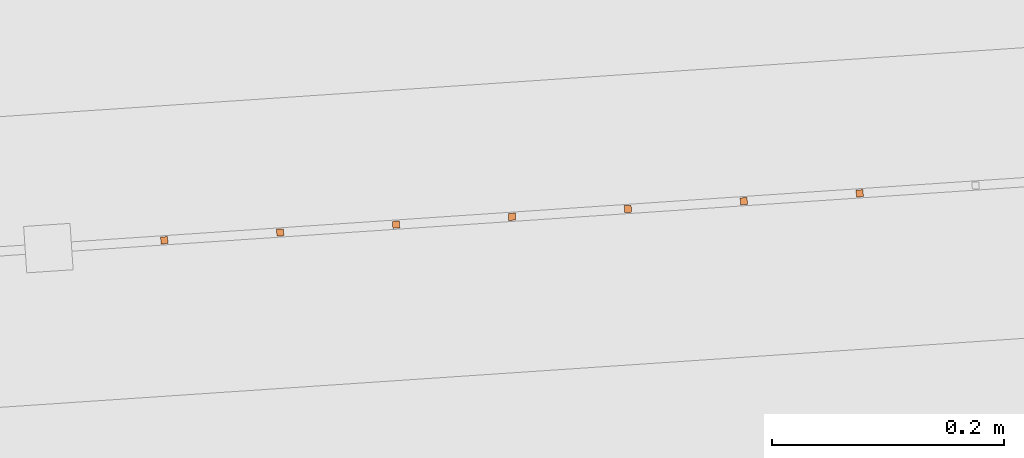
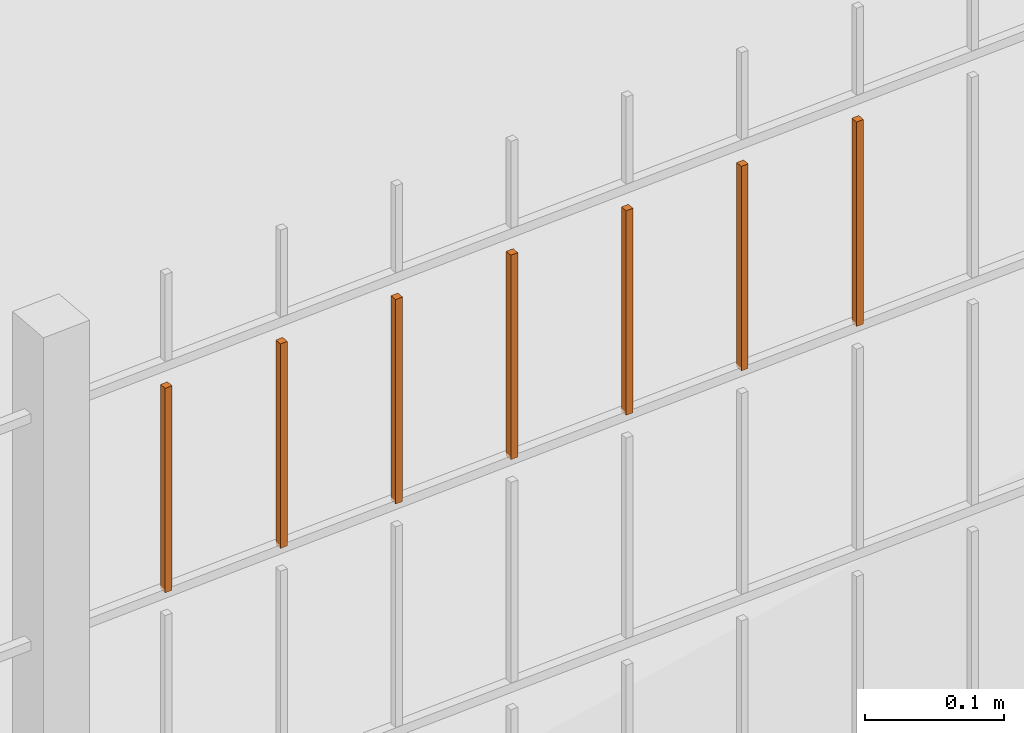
# One storey, part 99 of 1809: 7 proxies, 1 element without a shape of its own.
"""IFC2X3 building model written with IfcOpenShell, lengths in millimetres."""

from ifc_helpers import new_model, entity, si_unit, converted_unit, derived_unit, money_unit, direction, frame, origin_with_axes, place, context, subcontext, project, spatial, faceted_brep, source, transform, mapped, material, type_object, element, aggregate, save


model = new_model("IFC2X3")

# Units and contexts
model_context = context("Model", 3, precision=0.01, world=origin_with_axes(), true_north=direction((0.0, 1.0)))
body_context = subcontext(model_context, "Body", "Model", "MODEL_VIEW")
ifc_project = project(units=[si_unit("LENGTHUNIT", "METRE", prefix="MILLI"), si_unit("AREAUNIT", "SQUARE_METRE"), si_unit("VOLUMEUNIT", "CUBIC_METRE"), converted_unit("PLANEANGLEUNIT", "DEGREE", entity("IfcPlaneAngleMeasure", 0.0174532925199), si_unit("PLANEANGLEUNIT", "RADIAN"), dimensions=[0, 0, 0, 0, 0, 0, 0]), si_unit("SOLIDANGLEUNIT", "STERADIAN"), money_unit("EUR"), converted_unit("TIMEUNIT", "Year", entity("IfcTimeMeasure", 31556926.0), si_unit("TIMEUNIT", "SECOND"), dimensions=[0, 0, 1, 0, 0, 0, 0]), si_unit("MASSUNIT", "GRAM", prefix="KILO"), si_unit("THERMODYNAMICTEMPERATUREUNIT", "DEGREE_CELSIUS"), si_unit("LUMINOUSINTENSITYUNIT", "LUMEN"), si_unit("ENERGYUNIT", "JOULE", prefix="MEGA"), derived_unit("THERMALCONDUCTANCEUNIT", [(si_unit("POWERUNIT", "WATT"), 1), (si_unit("LENGTHUNIT", "METRE"), -1), (si_unit("THERMODYNAMICTEMPERATUREUNIT", "KELVIN"), -1)]), derived_unit("SPECIFICHEATCAPACITYUNIT", [(si_unit("ENERGYUNIT", "JOULE"), 1), (si_unit("MASSUNIT", "GRAM", prefix="KILO"), -1), (si_unit("THERMODYNAMICTEMPERATUREUNIT", "KELVIN"), -1)]), derived_unit("MASSDENSITYUNIT", [(si_unit("MASSUNIT", "GRAM", prefix="KILO"), 1), (si_unit("VOLUMEUNIT", "CUBIC_METRE"), -1)])], contexts=[model_context])

# Site, building, storey
site_placement = place(None, origin_with_axes())
site = spatial("IfcSite", under=ifc_project, at=site_placement, Name="Politse- ja Piirivalveameti ning Päästeameti ühishoone", CompositionType="ELEMENT")
building_placement = place(site_placement, origin_with_axes())
building = spatial("IfcBuilding", under=site, at=building_placement, Name="Politse- ja Piirivalveameti ning Päästeameti ühishoone", CompositionType="ELEMENT")
storey_placement = place(building_placement, origin_with_axes())
storey = spatial("IfcBuildingStorey", under=building, at=storey_placement, Name="Esimene korrus", CompositionType="ELEMENT", Elevation=0.0)

# Proxies
building_element_proxy_type_1 = type_object("IfcBuildingElementProxyType", Name="Railing Type", PredefinedType="NOTDEFINED")
proxy_1_placement = place(storey_placement, frame((89252.001212, -29183.4766571, 203.661247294), z_axis=(0.0, 0.0, 1.0), x_axis=(1.0, 0.0, 0.0)))
proxy_1 = element("IfcBuildingElementProxy", 1, at=proxy_1_placement, inside=storey, type_object=building_element_proxy_type_1, Name="PIIRDEAED")
ifc_material = material(Name="ET-03_Raud")
building_element_proxy_type_2 = type_object("IfcBuildingElementProxyType", Name="IfcBuildingElementProxy", PredefinedType="NOTDEFINED")
shared_shape_1 = source(origin_with_axes(), body_context, "Body", "Brep", [
    faceted_brep([(3.0, 3.0, -0.000752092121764), (-3.0, 3.0, -0.000752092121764), (-3.0, 3.0, 179.99926046), (3.0, 3.0, 179.99926046), (3.0, -3.0, 0.000752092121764), (-3.0, -3.0, 0.000752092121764), (-3.0, -3.0, 180.000764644), (3.0, -3.0, 180.000764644)], [[[0, 1, 2, 3]], [[0, 4, 5, 1]], [[1, 5, 6, 2]], [[3, 2, 6, 7]], [[4, 0, 3, 7]], [[5, 4, 7, 6]]]),
])
proxy_2_placement = place(proxy_1_placement, frame((-96806.1007278, -23836.6615327, 1802.91004964), z_axis=(0.0, 0.0, 1.0), x_axis=(1.0, 0.0, 0.0)))
proxy_2 = element("IfcBuildingElementProxy", 2, at=proxy_2_placement, type_object=building_element_proxy_type_2, material=ifc_material, Name="BALUSTER - 001", context=body_context, shape_type="MappedRepresentation", body=[
    mapped(shared_shape_1, transform((0.0, 0.0, 0.0), x_axis=(-0.0673926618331, 0.997726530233, 0.0), y_axis=(-0.997726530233, -0.0673926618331, 0.0), z_axis=(0.0, 0.0, 1.0))),
])
shared_shape_2 = source(origin_with_axes(), body_context, "Body", "Brep", [
    faceted_brep([(3.0, 3.0, -0.000752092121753), (-3.0, 3.0, -0.000752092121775), (-3.0, 3.0, 179.99926046), (3.0, 3.0, 179.99926046), (3.0, -3.0, 0.000752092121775), (-3.0, -3.0, 0.000752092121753), (-3.0, -3.0, 180.000764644), (3.0, -3.0, 180.000764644)], [[[0, 1, 2, 3]], [[0, 4, 5, 1]], [[1, 5, 6, 2]], [[3, 2, 6, 7]], [[4, 0, 3, 7]], [[5, 4, 7, 6]]]),
])
proxy_3_placement = place(proxy_1_placement, frame((-96706.3280748, -23829.9222665, 1802.93511937), z_axis=(0.0, 0.0, 1.0), x_axis=(1.0, 0.0, 0.0)))
proxy_3 = element("IfcBuildingElementProxy", 3, at=proxy_3_placement, type_object=building_element_proxy_type_2, material=ifc_material, Name="BALUSTER - 001", context=body_context, shape_type="MappedRepresentation", body=[
    mapped(shared_shape_2, transform((0.0, 0.0, 0.0), x_axis=(-0.0673926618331, 0.997726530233, 0.0), y_axis=(-0.997726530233, -0.0673926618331, 0.0), z_axis=(0.0, 0.0, 1.0))),
])
shared_shape_3 = source(origin_with_axes(), body_context, "Body", "Brep", [
    faceted_brep([(3.0, 3.0, -0.000752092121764), (-3.0, 3.0, -0.000752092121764), (-3.0, 3.0, 179.99926046), (3.0, 3.0, 179.99926046), (3.0, -3.0, 0.000752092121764), (-3.0, -3.0, 0.000752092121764), (-3.0, -3.0, 180.000764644), (3.0, -3.0, 180.000764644)], [[[0, 1, 2, 3]], [[0, 4, 5, 1]], [[1, 5, 6, 2]], [[3, 2, 6, 7]], [[4, 0, 3, 7]], [[5, 4, 7, 6]]]),
])
proxy_4_placement = place(proxy_1_placement, frame((-96407.0101157, -23809.704468, 1803.01032859), z_axis=(0.0, 0.0, 1.0), x_axis=(1.0, 0.0, 0.0)))
proxy_4 = element("IfcBuildingElementProxy", 4, at=proxy_4_placement, type_object=building_element_proxy_type_2, material=ifc_material, Name="BALUSTER - 001", context=body_context, shape_type="MappedRepresentation", body=[
    mapped(shared_shape_3, transform((0.0, 0.0, 0.0), x_axis=(-0.0673926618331, 0.997726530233, 0.0), y_axis=(-0.997726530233, -0.0673926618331, 0.0), z_axis=(0.0, 0.0, 1.0))),
])
shared_shape_4 = source(origin_with_axes(), body_context, "Body", "Brep", [
    faceted_brep([(3.0, 3.0, -0.000752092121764), (-3.0, 3.0, -0.000752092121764), (-3.0, 3.0, 179.99926046), (3.0, 3.0, 179.99926046), (3.0, -3.0, 0.000752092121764), (-3.0, -3.0, 0.000752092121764), (-3.0, -3.0, 180.000764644), (3.0, -3.0, 180.000764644)], [[[0, 1, 2, 3]], [[0, 4, 5, 1]], [[1, 5, 6, 2]], [[3, 2, 6, 7]], [[4, 0, 3, 7]], [[5, 4, 7, 6]]]),
])
proxy_5_placement = place(proxy_1_placement, frame((-96905.8733808, -23843.4007989, 1802.8849799), z_axis=(0.0, 0.0, 1.0), x_axis=(1.0, 0.0, 0.0)))
proxy_5 = element("IfcBuildingElementProxy", 5, at=proxy_5_placement, type_object=building_element_proxy_type_2, material=ifc_material, Name="BALUSTER - 001", context=body_context, shape_type="MappedRepresentation", body=[
    mapped(shared_shape_4, transform((0.0, 0.0, 0.0), x_axis=(-0.0673926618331, 0.997726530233, 0.0), y_axis=(-0.997726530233, -0.0673926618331, 0.0), z_axis=(0.0, 0.0, 1.0))),
])
shared_shape_5 = source(origin_with_axes(), body_context, "Body", "Brep", [
    faceted_brep([(3.0, 3.0, -0.000752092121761), (-3.0, 3.0, -0.000752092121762), (-3.0, 3.0, 179.99926046), (3.0, 3.0, 179.99926046), (3.0, -3.0, 0.000752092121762), (-3.0, -3.0, 0.000752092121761), (-3.0, -3.0, 180.000764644), (3.0, -3.0, 180.000764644)], [[[0, 1, 2, 3]], [[0, 4, 5, 1]], [[1, 5, 6, 2]], [[3, 2, 6, 7]], [[4, 0, 3, 7]], [[5, 4, 7, 6]]]),
])
proxy_6_placement = place(proxy_1_placement, frame((-96506.7827687, -23816.4437342, 1802.98525885), z_axis=(0.0, 0.0, 1.0), x_axis=(1.0, 0.0, 0.0)))
proxy_6 = element("IfcBuildingElementProxy", 6, at=proxy_6_placement, type_object=building_element_proxy_type_2, material=ifc_material, Name="BALUSTER - 001", context=body_context, shape_type="MappedRepresentation", body=[
    mapped(shared_shape_5, transform((0.0, 0.0, 0.0), x_axis=(-0.0673926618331, 0.997726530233, 0.0), y_axis=(-0.997726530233, -0.0673926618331, 0.0), z_axis=(0.0, 0.0, 1.0))),
])
shared_shape_6 = source(origin_with_axes(), body_context, "Body", "Brep", [
    faceted_brep([(3.0, 3.0, -0.000752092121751), (-3.0, 3.0, -0.000752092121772), (-3.0, 3.0, 179.99926046), (3.0, 3.0, 179.99926046), (3.0, -3.0, 0.000752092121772), (-3.0, -3.0, 0.000752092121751), (-3.0, -3.0, 180.000764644), (3.0, -3.0, 180.000764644)], [[[0, 1, 2, 3]], [[0, 4, 5, 1]], [[1, 5, 6, 2]], [[3, 2, 6, 7]], [[4, 0, 3, 7]], [[5, 4, 7, 6]]]),
])
proxy_7_placement = place(proxy_1_placement, frame((-96606.5554217, -23823.1830004, 1802.96018911), z_axis=(0.0, 0.0, 1.0), x_axis=(1.0, 0.0, 0.0)))
proxy_7 = element("IfcBuildingElementProxy", 7, at=proxy_7_placement, type_object=building_element_proxy_type_2, material=ifc_material, Name="BALUSTER - 001", context=body_context, shape_type="MappedRepresentation", body=[
    mapped(shared_shape_6, transform((0.0, 0.0, 0.0), x_axis=(-0.0673926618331, 0.997726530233, 0.0), y_axis=(-0.997726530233, -0.0673926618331, 0.0), z_axis=(0.0, 0.0, 1.0))),
])
shared_shape_7 = source(origin_with_axes(), body_context, "Body", "Brep", [
    faceted_brep([(3.0, 3.0, -0.000752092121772), (-3.0, 3.0, -0.000752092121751), (-3.0, 3.0, 179.99926046), (3.0, 3.0, 179.99926046), (3.0, -3.0, 0.000752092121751), (-3.0, -3.0, 0.000752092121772), (-3.0, -3.0, 180.000764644), (3.0, -3.0, 180.000764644)], [[[0, 1, 2, 3]], [[0, 4, 5, 1]], [[1, 5, 6, 2]], [[3, 2, 6, 7]], [[4, 0, 3, 7]], [[5, 4, 7, 6]]]),
])
proxy_8_placement = place(proxy_1_placement, frame((-97005.6460338, -23850.1400651, 1802.85991016), z_axis=(0.0, 0.0, 1.0), x_axis=(1.0, 0.0, 0.0)))
proxy_8 = element("IfcBuildingElementProxy", 8, at=proxy_8_placement, type_object=building_element_proxy_type_2, material=ifc_material, Name="BALUSTER - 001", context=body_context, shape_type="MappedRepresentation", body=[
    mapped(shared_shape_7, transform((0.0, 0.0, 0.0), x_axis=(-0.0673926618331, 0.997726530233, 0.0), y_axis=(-0.997726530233, -0.0673926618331, 0.0), z_axis=(0.0, 0.0, 1.0))),
])
aggregate(proxy_1, [proxy_4, proxy_6, proxy_7, proxy_3, proxy_2, proxy_5, proxy_8])

save(model, "model.ifc")
